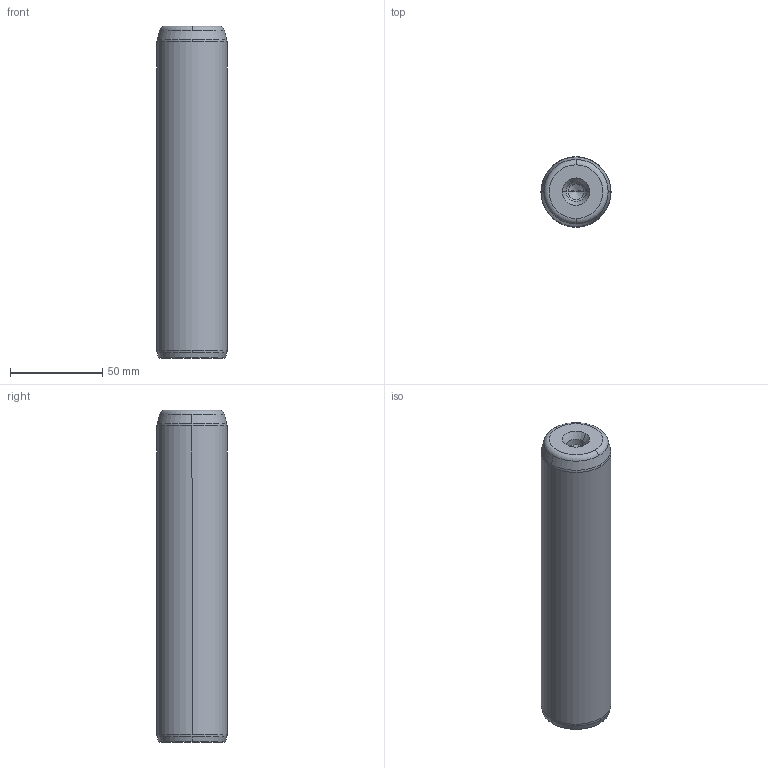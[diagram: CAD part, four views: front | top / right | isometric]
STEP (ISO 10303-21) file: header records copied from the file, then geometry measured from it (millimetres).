
FILE_DESCRIPTION((''),'2;1');
FILE_NAME('P10_038_180.stp','2008-12-23T15:14:31',(''),(''),'Mechanical Desktop 2009','Mechanical Desktop 2009',', , ');
FILE_SCHEMA(('CONFIG_CONTROL_DESIGN'));
Length unit declared in the file: millimetre
Products named in the file (5): Product; ProductAA; blmdl1; ProductA; blmdl1A
Assembly tree (2 placements, depth 3):
  Product
    ProductAA
      blmdl1
  ProductA
  blmdl1A
Bounding box: 38 x 38 x 180 mm (x, y, z)
Volume: 200707.5 mm3; surface area: 24108.8 mm2
Topology: 1 solids, 1 shells, 26 faces, 66 edges, 41 vertices
Faces by surface type: cone 10, torus 8, cylinder 6, plane 2
Entity records: 1012 total; most frequent: DIRECTION 170, CARTESIAN_POINT 134, ORIENTED_EDGE 128, AXIS2_PLACEMENT_3D 77, EDGE_CURVE 64, CIRCLE 48, VERTEX_POINT 41, EDGE_LOOP 27
